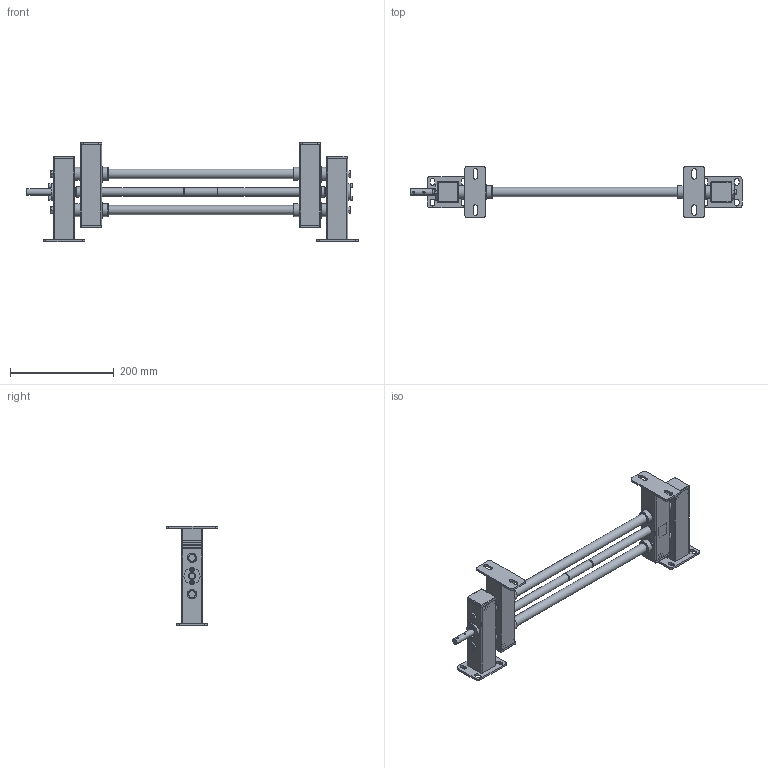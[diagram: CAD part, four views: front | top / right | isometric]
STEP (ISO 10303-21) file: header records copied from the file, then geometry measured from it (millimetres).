
FILE_DESCRIPTION(/* description */ ('SIDE ADJUSTMENT FOR SIDE GRIP CONVEYOR'),/* implementation_level */ '2;1');
FILE_NAME(/* name */ '\\carryline.intra\privat\users\mathias\Desktop\Tillfälliga filer\100-1400.stp',/* time_stamp */ '2018-11-20T10:15:00+01:00',/* author */ ('ML'),/* organization */ ('CARRYLINE'),/* preprocessor_version */ 'ST-DEVELOPER v17',/* originating_system */ 'Autodesk Inventor 2018',/* authorisation */ '');
FILE_SCHEMA (('AUTOMOTIVE_DESIGN { 1 0 10303 214 3 1 1 }'));
Length unit declared in the file: millimetre
Products named in the file (20): 100-1400-0-300; 15975_3; 15975_5; 15975_1; 15975_7; 15975_10; 15957_9; 15975_8; 15975_2; 15975_6; 15975_4; 5590-25; 5510-516; 15975_11; ISO 4026 - M5 x 5; 15975_21; 15975_16; 17078; 500-2010; 5500-816
Assembly tree (51 placements, depth 3):
  100-1400-0-300
    15975_4  x4
    15975_3  x2
    15975_5  x2
      15975_1
      15975_7
    15975_8  x2
      15975_2
      15975_6
    15975_10
    15957_9
    5590-25  x8
    5510-516  x4
    15975_11  x2
    ISO 4026 - M5 x 5  x2
    15975_16  x2
    15975_21
    17078  x8
    500-2010  x4
    5500-816  x4
Bounding box: 641.5 x 100 x 192 mm (x, y, z)
Volume: 817925.9 mm3; surface area: 455215.3 mm2
Topology: 55 solids, 55 shells, 1077 faces, 2733 edges, 1794 vertices
Faces by surface type: plane 592, cylinder 261, cone 200, sphere 16, torus 8
Full cylindrical faces by diameter (mm): 2 x16, 4 x2, 4.134 x6, 5 x10, 6.647 x4, 8 x4, 8.5 x8, 11.63 x4, 12 x4, 12.3 x2, 13.835 x2, 16 x3, 18 x24, 19 x4, 20 x18, 23.9 x8, 25 x20, 31 x2
Entity records: 11721 total; most frequent: CARTESIAN_POINT 2263, DIRECTION 1893, ORIENTED_EDGE 1748, EDGE_CURVE 874, AXIS2_PLACEMENT_3D 702, VERTEX_POINT 583, LINE 489, VECTOR 489
